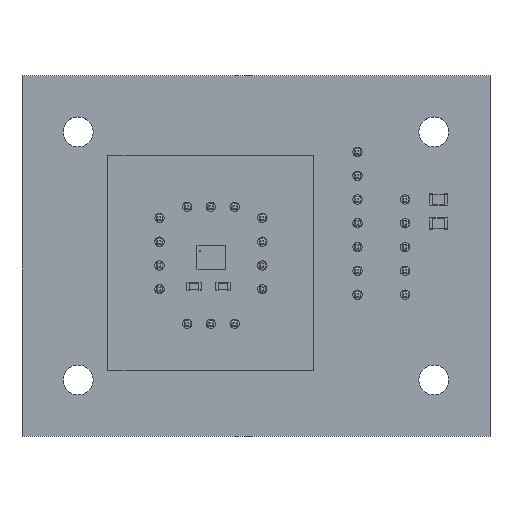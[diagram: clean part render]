
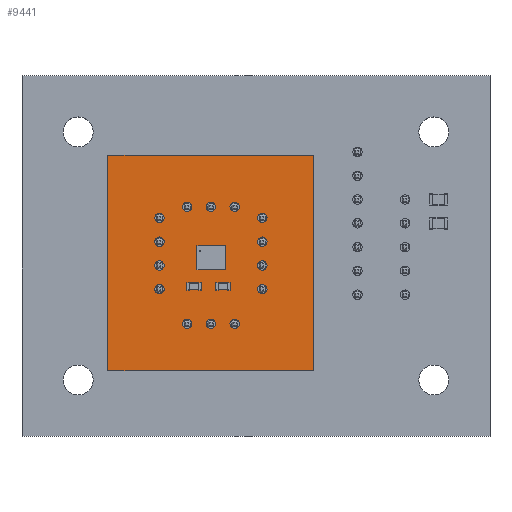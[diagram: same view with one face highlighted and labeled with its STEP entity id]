
A CAD part, top view. The second image highlights one B-rep face of the part: STEP entity #9441.
In plain terms, the highlighted planar face has unit normal (0, 0, 1).
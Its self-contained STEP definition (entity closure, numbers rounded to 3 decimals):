
#9175 = VERTEX_POINT('',#9176);
#9176 = CARTESIAN_POINT('',(56.,-48.,1.51));
#9182 = EDGE_CURVE('',#9175,#9183,#9185,.T.);
#9183 = VERTEX_POINT('',#9184);
#9184 = CARTESIAN_POINT('',(34.,-48.,1.51));
#9185 = LINE('',#9186,#9187);
#9186 = CARTESIAN_POINT('',(56.,-48.,1.51));
#9187 = VECTOR('',#9188,1.);
#9188 = DIRECTION('',(-1.,0.,0.));
#9215 = VERTEX_POINT('',#9216);
#9216 = CARTESIAN_POINT('',(56.,-25.,1.51));
#9222 = EDGE_CURVE('',#9215,#9175,#9223,.T.);
#9223 = LINE('',#9224,#9225);
#9224 = CARTESIAN_POINT('',(56.,-25.,1.51));
#9225 = VECTOR('',#9226,1.);
#9226 = DIRECTION('',(0.,-1.,0.));
#9244 = EDGE_CURVE('',#9183,#9245,#9247,.T.);
#9245 = VERTEX_POINT('',#9246);
#9246 = CARTESIAN_POINT('',(34.,-25.,1.51));
#9247 = LINE('',#9248,#9249);
#9248 = CARTESIAN_POINT('',(34.,-48.,1.51));
#9249 = VECTOR('',#9250,1.);
#9250 = DIRECTION('',(0.,1.,0.));
#9441 = ADVANCED_FACE('',(#9442,#9453,#9464,#9475,#9486,#9497,#9508,
    #9519,#9530,#9541,#9552,#9563,#9574,#9585,#9596),#9607,.T.);
#9442 = FACE_BOUND('',#9443,.T.);
#9443 = EDGE_LOOP('',(#9444,#9445,#9446,#9452));
#9444 = ORIENTED_EDGE('',*,*,#9182,.F.);
#9445 = ORIENTED_EDGE('',*,*,#9222,.F.);
#9446 = ORIENTED_EDGE('',*,*,#9447,.F.);
#9447 = EDGE_CURVE('',#9245,#9215,#9448,.T.);
#9448 = LINE('',#9449,#9450);
#9449 = CARTESIAN_POINT('',(34.,-25.,1.51));
#9450 = VECTOR('',#9451,1.);
#9451 = DIRECTION('',(1.,0.,0.));
#9452 = ORIENTED_EDGE('',*,*,#9244,.F.);
#9453 = FACE_BOUND('',#9454,.T.);
#9454 = EDGE_LOOP('',(#9455));
#9455 = ORIENTED_EDGE('',*,*,#9456,.T.);
#9456 = EDGE_CURVE('',#9457,#9457,#9459,.T.);
#9457 = VERTEX_POINT('',#9458);
#9458 = CARTESIAN_POINT('',(42.46,-43.5,1.51));
#9459 = CIRCLE('',#9460,0.5);
#9460 = AXIS2_PLACEMENT_3D('',#9461,#9462,#9463);
#9461 = CARTESIAN_POINT('',(42.46,-43.,1.51));
#9462 = DIRECTION('',(-0.,0.,-1.));
#9463 = DIRECTION('',(-0.,-1.,0.));
#9464 = FACE_BOUND('',#9465,.T.);
#9465 = EDGE_LOOP('',(#9466));
#9466 = ORIENTED_EDGE('',*,*,#9467,.T.);
#9467 = EDGE_CURVE('',#9468,#9468,#9470,.T.);
#9468 = VERTEX_POINT('',#9469);
#9469 = CARTESIAN_POINT('',(39.5,-39.81,1.51));
#9470 = CIRCLE('',#9471,0.5);
#9471 = AXIS2_PLACEMENT_3D('',#9472,#9473,#9474);
#9472 = CARTESIAN_POINT('',(39.5,-39.31,1.51));
#9473 = DIRECTION('',(-0.,0.,-1.));
#9474 = DIRECTION('',(-0.,-1.,0.));
#9475 = FACE_BOUND('',#9476,.T.);
#9476 = EDGE_LOOP('',(#9477));
#9477 = ORIENTED_EDGE('',*,*,#9478,.T.);
#9478 = EDGE_CURVE('',#9479,#9479,#9481,.T.);
#9479 = VERTEX_POINT('',#9480);
#9480 = CARTESIAN_POINT('',(39.5,-37.27,1.51));
#9481 = CIRCLE('',#9482,0.5);
#9482 = AXIS2_PLACEMENT_3D('',#9483,#9484,#9485);
#9483 = CARTESIAN_POINT('',(39.5,-36.77,1.51));
#9484 = DIRECTION('',(-0.,0.,-1.));
#9485 = DIRECTION('',(-0.,-1.,0.));
#9486 = FACE_BOUND('',#9487,.T.);
#9487 = EDGE_LOOP('',(#9488));
#9488 = ORIENTED_EDGE('',*,*,#9489,.T.);
#9489 = EDGE_CURVE('',#9490,#9490,#9492,.T.);
#9490 = VERTEX_POINT('',#9491);
#9491 = CARTESIAN_POINT('',(45.,-43.5,1.51));
#9492 = CIRCLE('',#9493,0.5);
#9493 = AXIS2_PLACEMENT_3D('',#9494,#9495,#9496);
#9494 = CARTESIAN_POINT('',(45.,-43.,1.51));
#9495 = DIRECTION('',(-0.,0.,-1.));
#9496 = DIRECTION('',(-0.,-1.,0.));
#9497 = FACE_BOUND('',#9498,.T.);
#9498 = EDGE_LOOP('',(#9499));
#9499 = ORIENTED_EDGE('',*,*,#9500,.T.);
#9500 = EDGE_CURVE('',#9501,#9501,#9503,.T.);
#9501 = VERTEX_POINT('',#9502);
#9502 = CARTESIAN_POINT('',(47.54,-43.5,1.51));
#9503 = CIRCLE('',#9504,0.5);
#9504 = AXIS2_PLACEMENT_3D('',#9505,#9506,#9507);
#9505 = CARTESIAN_POINT('',(47.54,-43.,1.51));
#9506 = DIRECTION('',(-0.,0.,-1.));
#9507 = DIRECTION('',(-0.,-1.,0.));
#9508 = FACE_BOUND('',#9509,.T.);
#9509 = EDGE_LOOP('',(#9510));
#9510 = ORIENTED_EDGE('',*,*,#9511,.T.);
#9511 = EDGE_CURVE('',#9512,#9512,#9514,.T.);
#9512 = VERTEX_POINT('',#9513);
#9513 = CARTESIAN_POINT('',(50.5,-39.81,1.51));
#9514 = CIRCLE('',#9515,0.5);
#9515 = AXIS2_PLACEMENT_3D('',#9516,#9517,#9518);
#9516 = CARTESIAN_POINT('',(50.5,-39.31,1.51));
#9517 = DIRECTION('',(-0.,0.,-1.));
#9518 = DIRECTION('',(-0.,-1.,0.));
#9519 = FACE_BOUND('',#9520,.T.);
#9520 = EDGE_LOOP('',(#9521));
#9521 = ORIENTED_EDGE('',*,*,#9522,.T.);
#9522 = EDGE_CURVE('',#9523,#9523,#9525,.T.);
#9523 = VERTEX_POINT('',#9524);
#9524 = CARTESIAN_POINT('',(50.5,-37.27,1.51));
#9525 = CIRCLE('',#9526,0.5);
#9526 = AXIS2_PLACEMENT_3D('',#9527,#9528,#9529);
#9527 = CARTESIAN_POINT('',(50.5,-36.77,1.51));
#9528 = DIRECTION('',(-0.,0.,-1.));
#9529 = DIRECTION('',(-0.,-1.,0.));
#9530 = FACE_BOUND('',#9531,.T.);
#9531 = EDGE_LOOP('',(#9532));
#9532 = ORIENTED_EDGE('',*,*,#9533,.T.);
#9533 = EDGE_CURVE('',#9534,#9534,#9536,.T.);
#9534 = VERTEX_POINT('',#9535);
#9535 = CARTESIAN_POINT('',(39.5,-34.73,1.51));
#9536 = CIRCLE('',#9537,0.5);
#9537 = AXIS2_PLACEMENT_3D('',#9538,#9539,#9540);
#9538 = CARTESIAN_POINT('',(39.5,-34.23,1.51));
#9539 = DIRECTION('',(-0.,0.,-1.));
#9540 = DIRECTION('',(-0.,-1.,0.));
#9541 = FACE_BOUND('',#9542,.T.);
#9542 = EDGE_LOOP('',(#9543));
#9543 = ORIENTED_EDGE('',*,*,#9544,.T.);
#9544 = EDGE_CURVE('',#9545,#9545,#9547,.T.);
#9545 = VERTEX_POINT('',#9546);
#9546 = CARTESIAN_POINT('',(39.5,-32.19,1.51));
#9547 = CIRCLE('',#9548,0.5);
#9548 = AXIS2_PLACEMENT_3D('',#9549,#9550,#9551);
#9549 = CARTESIAN_POINT('',(39.5,-31.69,1.51));
#9550 = DIRECTION('',(-0.,0.,-1.));
#9551 = DIRECTION('',(-0.,-1.,0.));
#9552 = FACE_BOUND('',#9553,.T.);
#9553 = EDGE_LOOP('',(#9554));
#9554 = ORIENTED_EDGE('',*,*,#9555,.T.);
#9555 = EDGE_CURVE('',#9556,#9556,#9558,.T.);
#9556 = VERTEX_POINT('',#9557);
#9557 = CARTESIAN_POINT('',(42.46,-31.,1.51));
#9558 = CIRCLE('',#9559,0.5);
#9559 = AXIS2_PLACEMENT_3D('',#9560,#9561,#9562);
#9560 = CARTESIAN_POINT('',(42.46,-30.5,1.51));
#9561 = DIRECTION('',(-0.,0.,-1.));
#9562 = DIRECTION('',(-0.,-1.,0.));
#9563 = FACE_BOUND('',#9564,.T.);
#9564 = EDGE_LOOP('',(#9565));
#9565 = ORIENTED_EDGE('',*,*,#9566,.T.);
#9566 = EDGE_CURVE('',#9567,#9567,#9569,.T.);
#9567 = VERTEX_POINT('',#9568);
#9568 = CARTESIAN_POINT('',(50.5,-34.73,1.51));
#9569 = CIRCLE('',#9570,0.5);
#9570 = AXIS2_PLACEMENT_3D('',#9571,#9572,#9573);
#9571 = CARTESIAN_POINT('',(50.5,-34.23,1.51));
#9572 = DIRECTION('',(-0.,0.,-1.));
#9573 = DIRECTION('',(-0.,-1.,0.));
#9574 = FACE_BOUND('',#9575,.T.);
#9575 = EDGE_LOOP('',(#9576));
#9576 = ORIENTED_EDGE('',*,*,#9577,.T.);
#9577 = EDGE_CURVE('',#9578,#9578,#9580,.T.);
#9578 = VERTEX_POINT('',#9579);
#9579 = CARTESIAN_POINT('',(45.,-31.,1.51));
#9580 = CIRCLE('',#9581,0.5);
#9581 = AXIS2_PLACEMENT_3D('',#9582,#9583,#9584);
#9582 = CARTESIAN_POINT('',(45.,-30.5,1.51));
#9583 = DIRECTION('',(-0.,0.,-1.));
#9584 = DIRECTION('',(-0.,-1.,0.));
#9585 = FACE_BOUND('',#9586,.T.);
#9586 = EDGE_LOOP('',(#9587));
#9587 = ORIENTED_EDGE('',*,*,#9588,.T.);
#9588 = EDGE_CURVE('',#9589,#9589,#9591,.T.);
#9589 = VERTEX_POINT('',#9590);
#9590 = CARTESIAN_POINT('',(47.54,-31.,1.51));
#9591 = CIRCLE('',#9592,0.5);
#9592 = AXIS2_PLACEMENT_3D('',#9593,#9594,#9595);
#9593 = CARTESIAN_POINT('',(47.54,-30.5,1.51));
#9594 = DIRECTION('',(-0.,0.,-1.));
#9595 = DIRECTION('',(-0.,-1.,0.));
#9596 = FACE_BOUND('',#9597,.T.);
#9597 = EDGE_LOOP('',(#9598));
#9598 = ORIENTED_EDGE('',*,*,#9599,.T.);
#9599 = EDGE_CURVE('',#9600,#9600,#9602,.T.);
#9600 = VERTEX_POINT('',#9601);
#9601 = CARTESIAN_POINT('',(50.5,-32.19,1.51));
#9602 = CIRCLE('',#9603,0.5);
#9603 = AXIS2_PLACEMENT_3D('',#9604,#9605,#9606);
#9604 = CARTESIAN_POINT('',(50.5,-31.69,1.51));
#9605 = DIRECTION('',(-0.,0.,-1.));
#9606 = DIRECTION('',(-0.,-1.,0.));
#9607 = PLANE('',#9608);
#9608 = AXIS2_PLACEMENT_3D('',#9609,#9610,#9611);
#9609 = CARTESIAN_POINT('',(0.,0.,1.51));
#9610 = DIRECTION('',(0.,0.,1.));
#9611 = DIRECTION('',(1.,0.,-0.));
